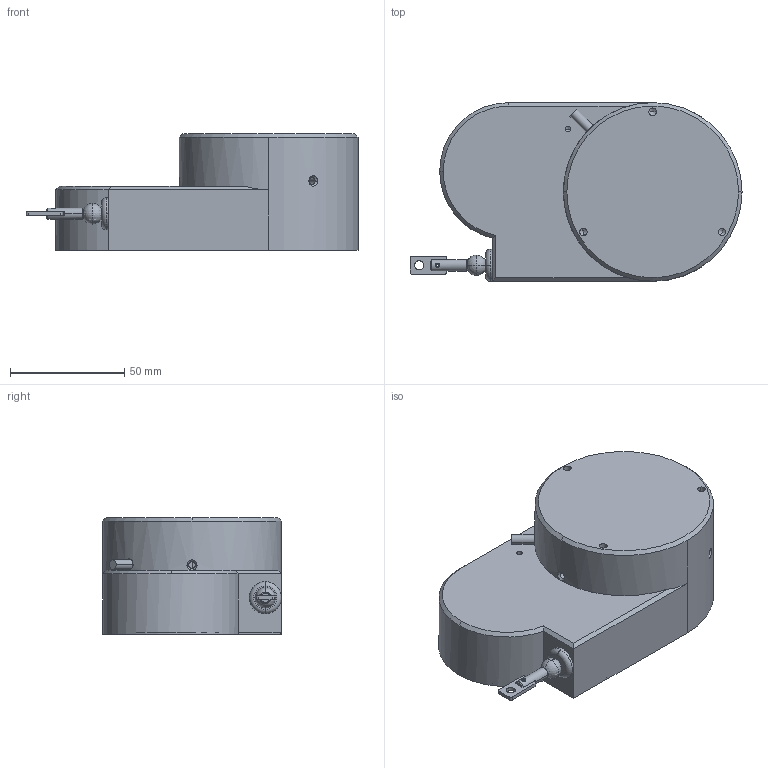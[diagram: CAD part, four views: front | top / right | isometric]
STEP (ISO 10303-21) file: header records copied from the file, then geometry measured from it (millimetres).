
FILE_DESCRIPTION(('STEP AP214'),'1');
FILE_NAME('//192.168.0.150/share/技術部/4.営業関連/1_CAD図面/1_3D/4_step/MLS-50.step','2019-05-16T09:24:16',(' '),(' '),'Spatial InterOp 3D',' ',' ');
FILE_SCHEMA(('automotive_design'));
Length unit declared in the file: millimetre
Products named in the file (8): _69; _202; _316; _373; _416; _493; _598; _694
Bounding box: 145 x 78 x 51 mm (x, y, z)
Volume: 108654.6 mm3; surface area: 65916.6 mm2
Topology: 8 solids, 8 shells, 153 faces, 385 edges, 240 vertices
Faces by surface type: cylinder 70, plane 47, cone 30, sphere 4, torus 2
Entity records: 6522 total; most frequent: CARTESIAN_POINT 1441, DIRECTION 831, ORIENTED_EDGE 738, EDGE_CURVE 369, AXIS2_PLACEMENT_3D 334, VERTEX_POINT 240, EDGE_LOOP 189, CIRCLE 171
